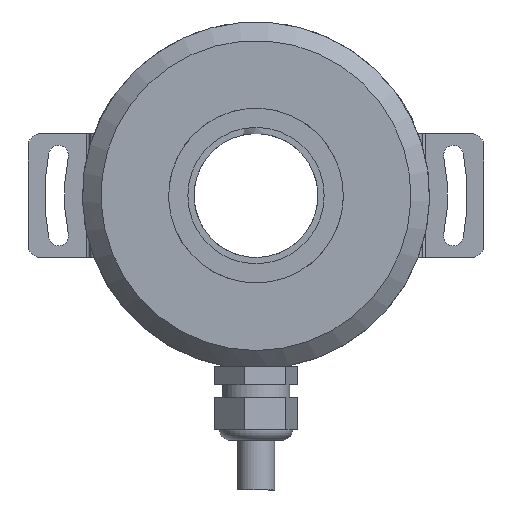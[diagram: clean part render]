
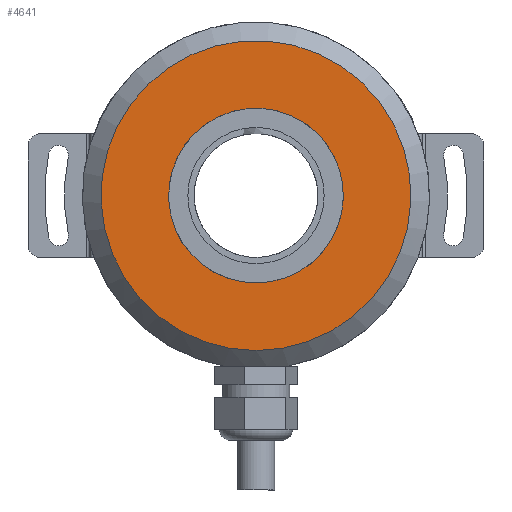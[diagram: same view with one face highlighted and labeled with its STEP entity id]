
A CAD part, left-side view. The second image highlights one B-rep face of the part: STEP entity #4641.
In plain terms, the highlighted planar face has unit normal (-1, 0, 0).
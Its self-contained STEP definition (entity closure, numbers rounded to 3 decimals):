
#4641=ADVANCED_FACE('',(#8257,#8259),#8261,.F.);
#8257=FACE_BOUND('',#8258,.T.);
#8258=EDGE_LOOP('',(#11109));
#8259=FACE_BOUND('',#8260,.T.);
#8260=EDGE_LOOP('',(#11110,#11111));
#8261=PLANE('',#8262);
#8262=AXIS2_PLACEMENT_3D('',#8263,#8264,#8265);
#8263=CARTESIAN_POINT('',(0.,14.1,0.));
#8264=DIRECTION('',(1.,0.,0.));
#8265=DIRECTION('',(0.,1.,0.));
#11109=ORIENTED_EDGE('',*,*,#12427,.T.);
#11110=ORIENTED_EDGE('',*,*,#12428,.F.);
#11111=ORIENTED_EDGE('',*,*,#12429,.F.);
#12427=EDGE_CURVE('',#14011,#14011,#14012,.T.);
#12428=EDGE_CURVE('',#14013,#14014,#14015,.T.);
#12429=EDGE_CURVE('',#14014,#14013,#14016,.T.);
#14011=VERTEX_POINT('',#18508);
#14012=CIRCLE('',#18509,25.);
#14013=VERTEX_POINT('',#18513);
#14014=VERTEX_POINT('',#18514);
#14015=CIRCLE('',#18515,14.1);
#14016=CIRCLE('',#18519,14.1);
#18508=CARTESIAN_POINT('',(0.,0.,25.));
#18509=AXIS2_PLACEMENT_3D('',#18510,#18511,#18512);
#18510=CARTESIAN_POINT('',(0.,0.,0.));
#18511=DIRECTION('',(-1.,0.,0.));
#18512=DIRECTION('',(0.,0.,1.));
#18513=CARTESIAN_POINT('',(0.,-9.97,-9.97));
#18514=CARTESIAN_POINT('',(0.,0.,14.1));
#18515=AXIS2_PLACEMENT_3D('',#18516,#18517,#18518);
#18516=CARTESIAN_POINT('',(0.,0.,0.));
#18517=DIRECTION('',(-1.,0.,0.));
#18518=DIRECTION('',(0.,-0.707,-0.707));
#18519=AXIS2_PLACEMENT_3D('',#18520,#18521,#18522);
#18520=CARTESIAN_POINT('',(0.,0.,0.));
#18521=DIRECTION('',(-1.,0.,0.));
#18522=DIRECTION('',(0.,0.,1.));
